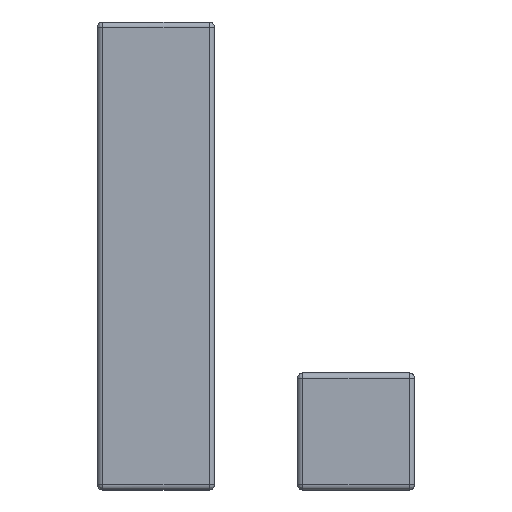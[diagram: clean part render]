
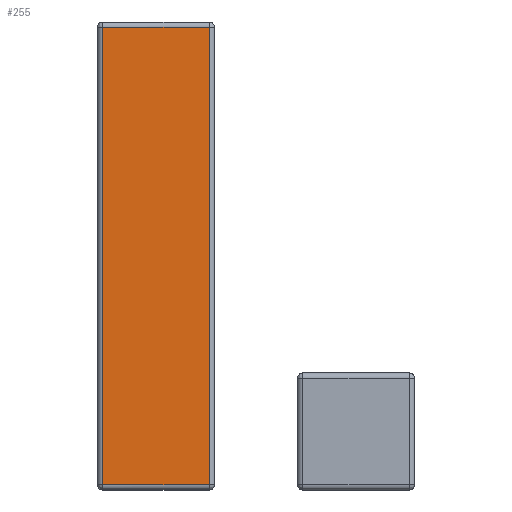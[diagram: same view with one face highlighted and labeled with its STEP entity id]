
A CAD part, left-side view. The second image highlights one B-rep face of the part: STEP entity #255.
In plain terms, the highlighted planar face has unit normal (-1, 0, 0).
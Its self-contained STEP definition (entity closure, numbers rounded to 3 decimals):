
#255=ADVANCED_FACE('',(#422),#2149,.T.);
#422=FACE_OUTER_BOUND('',#589,.T.);
#589=EDGE_LOOP('',(#1158,#1159,#1160,#1161));
#1158=ORIENTED_EDGE('',*,*,#1501,.T.);
#1159=ORIENTED_EDGE('',*,*,#1502,.T.);
#1160=ORIENTED_EDGE('',*,*,#1497,.F.);
#1161=ORIENTED_EDGE('',*,*,#1500,.F.);
#1497=EDGE_CURVE('',#1978,#1977,#1820,.T.);
#1500=EDGE_CURVE('',#1979,#1978,#1821,.T.);
#1501=EDGE_CURVE('',#1979,#1980,#1822,.T.);
#1502=EDGE_CURVE('',#1980,#1977,#1823,.T.);
#1820=B_SPLINE_CURVE_WITH_KNOTS('',1,(#5448,#5449),.UNSPECIFIED.,.F.,.F.,
(2,2),(-1.,0.),.UNSPECIFIED.);
#1821=B_SPLINE_CURVE_WITH_KNOTS('',1,(#5456,#5457),.UNSPECIFIED.,.F.,.F.,
(2,2),(-1.,0.),.UNSPECIFIED.);
#1822=B_SPLINE_CURVE_WITH_KNOTS('',1,(#5458,#5459),.UNSPECIFIED.,.F.,.F.,
(2,2),(0.,1.),.UNSPECIFIED.);
#1823=B_SPLINE_CURVE_WITH_KNOTS('',1,(#5460,#5461),.UNSPECIFIED.,.F.,.F.,
(2,2),(0.,1.),.UNSPECIFIED.);
#1977=VERTEX_POINT('',#5391);
#1978=VERTEX_POINT('',#5392);
#1979=VERTEX_POINT('',#5393);
#1980=VERTEX_POINT('',#5394);
#2149=PLANE('',#2209);
#2209=AXIS2_PLACEMENT_3D('',#5224,#2252,$);
#2252=DIRECTION('',(-1.,0.,0.));
#5224=CARTESIAN_POINT('',(-566.931,91.,9.));
#5391=CARTESIAN_POINT('',(-566.931,-91.,791.));
#5392=CARTESIAN_POINT('',(-566.931,91.,791.));
#5393=CARTESIAN_POINT('',(-566.931,91.,9.));
#5394=CARTESIAN_POINT('',(-566.931,-91.,9.));
#5448=CARTESIAN_POINT('',(-566.931,91.,791.));
#5449=CARTESIAN_POINT('',(-566.931,-91.,791.));
#5456=CARTESIAN_POINT('',(-566.931,91.,9.));
#5457=CARTESIAN_POINT('',(-566.931,91.,791.));
#5458=CARTESIAN_POINT('',(-566.931,91.,9.));
#5459=CARTESIAN_POINT('',(-566.931,-91.,9.));
#5460=CARTESIAN_POINT('',(-566.931,-91.,9.));
#5461=CARTESIAN_POINT('',(-566.931,-91.,791.));
